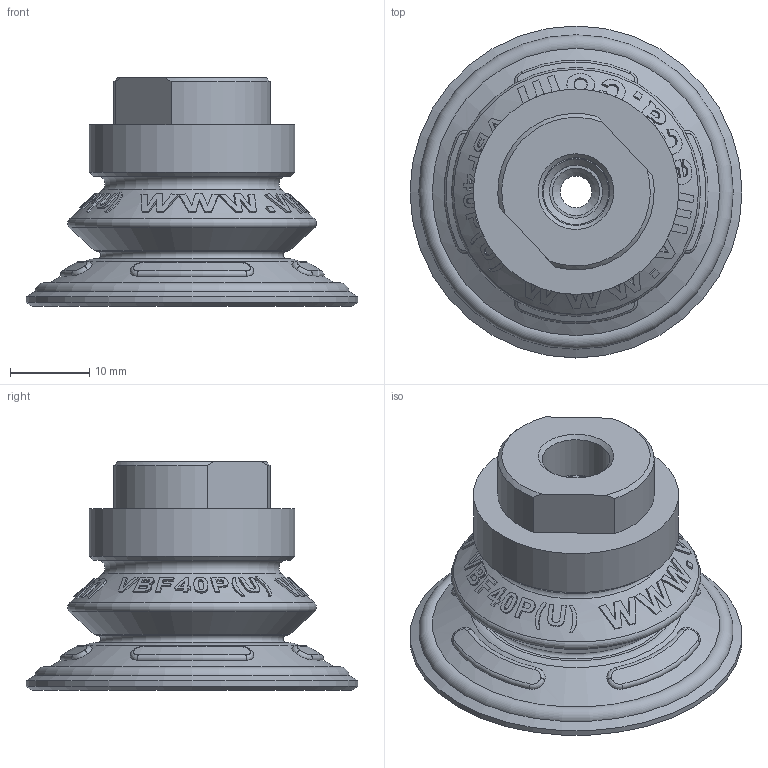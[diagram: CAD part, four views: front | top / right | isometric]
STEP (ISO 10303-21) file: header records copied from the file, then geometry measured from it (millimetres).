
FILE_DESCRIPTION( ( 'Unknown' ), '1' );
FILE_NAME( 'C:/Documents and Settings/茄惫春概平/My Documents/诀公/3d/VBF40/VBF40 PU 18F.stp', 'Unknown', ( 'Unknown' ), ( 'Unknown' ), 'PSStep 10.0', 'Unknown', ' ' );
FILE_SCHEMA( ( 'automotive_design' ) );
Length unit declared in the file: millimetre
Products named in the file (1): VBF40
Bounding box: 42 x 42 x 28.94 mm (x, y, z)
Volume: 10083.5 mm3; surface area: 7799.6 mm2
Topology: 1 solids, 2 shells, 456 faces, 1173 edges, 762 vertices
Faces by surface type: bspline 180, plane 150, cylinder 59, cone 49, torus 18
Full cylindrical faces by diameter (mm): 4 x1, 6 x1, 6.7 x1, 8.566 x1, 13.5 x1, 15.5 x1, 16.1 x1, 26 x1, 42 x1
Entity records: 26882 total; most frequent: CARTESIAN_POINT 13651, ORIENTED_EDGE 2262, DIRECTION 1416, EDGE_CURVE 1131, VERTEX_POINT 757, EDGE_LOOP 538, AXIS2_PLACEMENT_3D 516, B_SPLINE_CURVE_WITH_KNOTS 508
